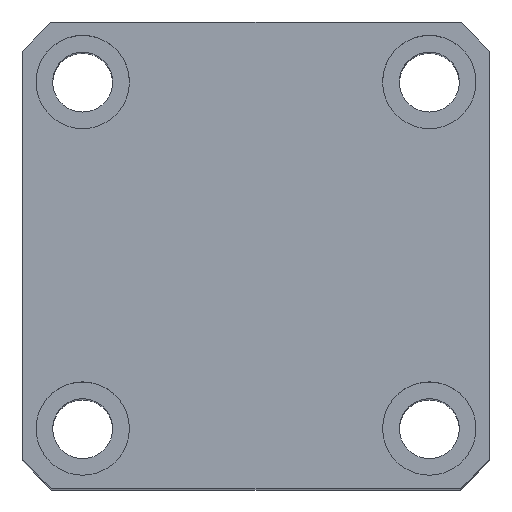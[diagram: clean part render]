
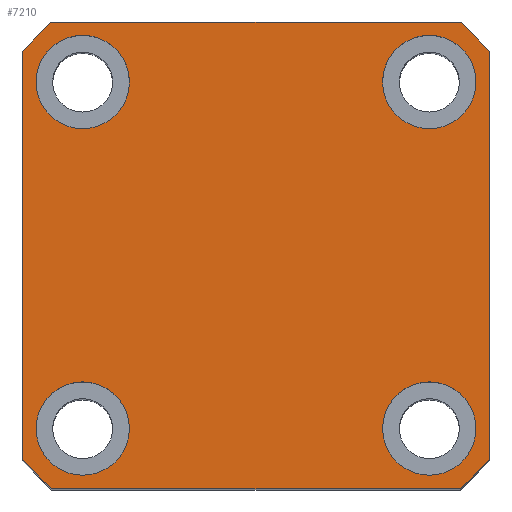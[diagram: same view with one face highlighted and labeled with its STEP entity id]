
A CAD part, top view. The second image highlights one B-rep face of the part: STEP entity #7210.
In plain terms, the highlighted planar face has unit normal (0, 0, 1).
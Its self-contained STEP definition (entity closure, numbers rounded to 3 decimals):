
#4 = AXIS2_PLACEMENT_3D ( 'NONE', #6477, #1854, #7226 ) ;
#46 = CARTESIAN_POINT ( 'NONE',  ( -19., 26., 125. ) ) ;
#124 = CIRCLE ( 'NONE', #1529, 7. ) ;
#165 = VERTEX_POINT ( 'NONE', #7181 ) ;
#301 = DIRECTION ( 'NONE',  ( 1., 0., 0. ) ) ;
#597 = EDGE_LOOP ( 'NONE', ( #7522, #2960 ) ) ;
#624 = CIRCLE ( 'NONE', #9490, 7. ) ;
#733 = CARTESIAN_POINT ( 'NONE',  ( 0., 0., 125. ) ) ;
#741 = CARTESIAN_POINT ( 'NONE',  ( 0., 0., 125. ) ) ;
#772 = DIRECTION ( 'NONE',  ( 1., 0., 0. ) ) ;
#786 = VERTEX_POINT ( 'NONE', #4846 ) ;
#893 = ORIENTED_EDGE ( 'NONE', *, *, #1136, .F. ) ;
#967 = VECTOR ( 'NONE', #1469, 1000. ) ;
#1009 = ORIENTED_EDGE ( 'NONE', *, *, #1782, .T. ) ;
#1136 = EDGE_CURVE ( 'NONE', #4262, #2977, #624, .T. ) ;
#1163 = LINE ( 'NONE', #2288, #5284 ) ;
#1195 = EDGE_CURVE ( 'NONE', #9448, #3443, #124, .T. ) ;
#1331 = AXIS2_PLACEMENT_3D ( 'NONE', #1372, #6760, #2141 ) ;
#1337 = DIRECTION ( 'NONE',  ( 0., 0., 1. ) ) ;
#1370 = EDGE_CURVE ( 'NONE', #3443, #9448, #5585, .T. ) ;
#1372 = CARTESIAN_POINT ( 'NONE',  ( 0., 0., 125. ) ) ;
#1469 = DIRECTION ( 'NONE',  ( 0., -1., 0. ) ) ;
#1503 = ORIENTED_EDGE ( 'NONE', *, *, #7091, .T. ) ;
#1519 = CARTESIAN_POINT ( 'NONE',  ( -26., 26., 125. ) ) ;
#1522 = EDGE_CURVE ( 'NONE', #2977, #4262, #9199, .T. ) ;
#1528 = DIRECTION ( 'NONE',  ( 1., 0., 0. ) ) ;
#1529 = AXIS2_PLACEMENT_3D ( 'NONE', #8742, #7184, #9478 ) ;
#1537 = DIRECTION ( 'NONE',  ( 1., 0., 0. ) ) ;
#1571 = FACE_BOUND ( 'NONE', #597, .T. ) ;
#1621 = EDGE_CURVE ( 'NONE', #5651, #3943, #2562, .T. ) ;
#1663 = CARTESIAN_POINT ( 'NONE',  ( 0., 0., 125. ) ) ;
#1678 = AXIS2_PLACEMENT_3D ( 'NONE', #4163, #8016, #3407 ) ;
#1761 = CARTESIAN_POINT ( 'NONE',  ( -35., 35., 125. ) ) ;
#1782 = EDGE_CURVE ( 'NONE', #7416, #7313, #9574, .T. ) ;
#1789 = EDGE_LOOP ( 'NONE', ( #2552, #2749 ) ) ;
#1821 = LINE ( 'NONE', #1761, #9797 ) ;
#1853 = EDGE_CURVE ( 'NONE', #4770, #2748, #3652, .T. ) ;
#1854 = DIRECTION ( 'NONE',  ( 0., 0., 1. ) ) ;
#1929 = CARTESIAN_POINT ( 'NONE',  ( -35., 30.615, 125. ) ) ;
#1955 = CIRCLE ( 'NONE', #3237, 46.5 ) ;
#1975 = EDGE_CURVE ( 'NONE', #165, #10014, #8828, .T. ) ;
#1978 = CARTESIAN_POINT ( 'NONE',  ( 19., -26., 125. ) ) ;
#2065 = LINE ( 'NONE', #7212, #7969 ) ;
#2141 = DIRECTION ( 'NONE',  ( 1., 0., 0. ) ) ;
#2143 = CARTESIAN_POINT ( 'NONE',  ( 30.615, 35., 125. ) ) ;
#2234 = CARTESIAN_POINT ( 'NONE',  ( -35., 35., 125. ) ) ;
#2288 = CARTESIAN_POINT ( 'NONE',  ( -35., -35., 125. ) ) ;
#2293 = DIRECTION ( 'NONE',  ( 1., 0., 0. ) ) ;
#2323 = EDGE_CURVE ( 'NONE', #8135, #786, #1955, .T. ) ;
#2401 = AXIS2_PLACEMENT_3D ( 'NONE', #741, #6158, #1537 ) ;
#2439 = DIRECTION ( 'NONE',  ( 1., 0., 0. ) ) ;
#2552 = ORIENTED_EDGE ( 'NONE', *, *, #1195, .F. ) ;
#2562 = CIRCLE ( 'NONE', #1331, 46.5 ) ;
#2607 = DIRECTION ( 'NONE',  ( 0., 1., 0. ) ) ;
#2656 = DIRECTION ( 'NONE',  ( 0., 0., 1. ) ) ;
#2748 = VERTEX_POINT ( 'NONE', #7272 ) ;
#2749 = ORIENTED_EDGE ( 'NONE', *, *, #1370, .F. ) ;
#2885 = CARTESIAN_POINT ( 'NONE',  ( 30.615, -35., 125. ) ) ;
#2960 = ORIENTED_EDGE ( 'NONE', *, *, #9581, .F. ) ;
#2977 = VERTEX_POINT ( 'NONE', #7587 ) ;
#3178 = AXIS2_PLACEMENT_3D ( 'NONE', #1519, #6895, #2293 ) ;
#3237 = AXIS2_PLACEMENT_3D ( 'NONE', #733, #6153, #1528 ) ;
#3379 = FACE_BOUND ( 'NONE', #1789, .T. ) ;
#3407 = DIRECTION ( 'NONE',  ( 1., 0., 0. ) ) ;
#3432 = AXIS2_PLACEMENT_3D ( 'NONE', #3520, #5426, #772 ) ;
#3443 = VERTEX_POINT ( 'NONE', #1978 ) ;
#3520 = CARTESIAN_POINT ( 'NONE',  ( -26., 26., 125. ) ) ;
#3601 = VERTEX_POINT ( 'NONE', #9973 ) ;
#3652 = CIRCLE ( 'NONE', #3432, 7. ) ;
#3656 = EDGE_CURVE ( 'NONE', #2748, #4770, #9677, .T. ) ;
#3802 = DIRECTION ( 'NONE',  ( 1., 0., 0. ) ) ;
#3943 = VERTEX_POINT ( 'NONE', #4937 ) ;
#4120 = AXIS2_PLACEMENT_3D ( 'NONE', #7261, #2656, #8040 ) ;
#4135 = EDGE_LOOP ( 'NONE', ( #6458, #8618, #1503, #1009, #5864, #8008, #8166, #9024 ) ) ;
#4163 = CARTESIAN_POINT ( 'NONE',  ( 0., 0., 125. ) ) ;
#4173 = DIRECTION ( 'NONE',  ( 0., 0., 1. ) ) ;
#4262 = VERTEX_POINT ( 'NONE', #7318 ) ;
#4357 = CARTESIAN_POINT ( 'NONE',  ( 26., 26., 125. ) ) ;
#4684 = AXIS2_PLACEMENT_3D ( 'NONE', #5970, #1337, #6736 ) ;
#4770 = VERTEX_POINT ( 'NONE', #46 ) ;
#4846 = CARTESIAN_POINT ( 'NONE',  ( -30.615, -35., 125. ) ) ;
#4937 = CARTESIAN_POINT ( 'NONE',  ( 35., -30.615, 125. ) ) ;
#5026 = CIRCLE ( 'NONE', #4684, 7. ) ;
#5135 = DIRECTION ( 'NONE',  ( 1., 0., 0. ) ) ;
#5206 = FACE_OUTER_BOUND ( 'NONE', #4135, .T. ) ;
#5284 = VECTOR ( 'NONE', #3802, 1000. ) ;
#5426 = DIRECTION ( 'NONE',  ( 0., 0., 1. ) ) ;
#5490 = ORIENTED_EDGE ( 'NONE', *, *, #3656, .F. ) ;
#5585 = CIRCLE ( 'NONE', #4120, 7. ) ;
#5651 = VERTEX_POINT ( 'NONE', #2885 ) ;
#5864 = ORIENTED_EDGE ( 'NONE', *, *, #5872, .T. ) ;
#5872 = EDGE_CURVE ( 'NONE', #7313, #8135, #6066, .T. ) ;
#5970 = CARTESIAN_POINT ( 'NONE',  ( -26., -26., 125. ) ) ;
#6035 = AXIS2_PLACEMENT_3D ( 'NONE', #1663, #7040, #2439 ) ;
#6066 = LINE ( 'NONE', #2234, #967 ) ;
#6134 = VERTEX_POINT ( 'NONE', #6420 ) ;
#6144 = CARTESIAN_POINT ( 'NONE',  ( 33., -26., 125. ) ) ;
#6153 = DIRECTION ( 'NONE',  ( 0., 0., 1. ) ) ;
#6158 = DIRECTION ( 'NONE',  ( 0., 0., 1. ) ) ;
#6177 = EDGE_CURVE ( 'NONE', #3943, #165, #2065, .T. ) ;
#6420 = CARTESIAN_POINT ( 'NONE',  ( -33., -26., 125. ) ) ;
#6458 = ORIENTED_EDGE ( 'NONE', *, *, #6177, .T. ) ;
#6477 = CARTESIAN_POINT ( 'NONE',  ( -26., -26., 125. ) ) ;
#6736 = DIRECTION ( 'NONE',  ( 1., 0., 0. ) ) ;
#6760 = DIRECTION ( 'NONE',  ( 0., 0., 1. ) ) ;
#6793 = CARTESIAN_POINT ( 'NONE',  ( -35., -30.615, 125. ) ) ;
#6895 = DIRECTION ( 'NONE',  ( 0., 0., 1. ) ) ;
#7040 = DIRECTION ( 'NONE',  ( 0., 0., 1. ) ) ;
#7091 = EDGE_CURVE ( 'NONE', #10014, #7416, #1821, .T. ) ;
#7167 = PLANE ( 'NONE',  #1678 ) ;
#7169 = EDGE_LOOP ( 'NONE', ( #9722, #5490 ) ) ;
#7174 = EDGE_LOOP ( 'NONE', ( #8389, #893 ) ) ;
#7181 = CARTESIAN_POINT ( 'NONE',  ( 35., 30.615, 125. ) ) ;
#7184 = DIRECTION ( 'NONE',  ( 0., 0., 1. ) ) ;
#7210 = ADVANCED_FACE ( 'NONE', ( #1571, #3379, #9301, #7224, #5206 ), #7167, .T. ) ;
#7212 = CARTESIAN_POINT ( 'NONE',  ( 35., 35., 125. ) ) ;
#7224 = FACE_BOUND ( 'NONE', #7169, .T. ) ;
#7226 = DIRECTION ( 'NONE',  ( 1., 0., 0. ) ) ;
#7261 = CARTESIAN_POINT ( 'NONE',  ( 26., -26., 125. ) ) ;
#7272 = CARTESIAN_POINT ( 'NONE',  ( -33., 26., 125. ) ) ;
#7313 = VERTEX_POINT ( 'NONE', #1929 ) ;
#7318 = CARTESIAN_POINT ( 'NONE',  ( 19., 26., 125. ) ) ;
#7341 = CARTESIAN_POINT ( 'NONE',  ( -30.615, 35., 125. ) ) ;
#7416 = VERTEX_POINT ( 'NONE', #7341 ) ;
#7518 = CIRCLE ( 'NONE', #4, 7. ) ;
#7522 = ORIENTED_EDGE ( 'NONE', *, *, #9878, .F. ) ;
#7587 = CARTESIAN_POINT ( 'NONE',  ( 33., 26., 125. ) ) ;
#7649 = EDGE_CURVE ( 'NONE', #786, #5651, #1163, .T. ) ;
#7969 = VECTOR ( 'NONE', #2607, 1000. ) ;
#8008 = ORIENTED_EDGE ( 'NONE', *, *, #2323, .T. ) ;
#8016 = DIRECTION ( 'NONE',  ( 0., 0., 1. ) ) ;
#8040 = DIRECTION ( 'NONE',  ( 1., 0., 0. ) ) ;
#8135 = VERTEX_POINT ( 'NONE', #6793 ) ;
#8166 = ORIENTED_EDGE ( 'NONE', *, *, #7649, .T. ) ;
#8389 = ORIENTED_EDGE ( 'NONE', *, *, #1522, .F. ) ;
#8618 = ORIENTED_EDGE ( 'NONE', *, *, #1975, .T. ) ;
#8742 = CARTESIAN_POINT ( 'NONE',  ( 26., -26., 125. ) ) ;
#8756 = AXIS2_PLACEMENT_3D ( 'NONE', #4357, #9755, #5135 ) ;
#8828 = CIRCLE ( 'NONE', #6035, 46.5 ) ;
#9024 = ORIENTED_EDGE ( 'NONE', *, *, #1621, .T. ) ;
#9199 = CIRCLE ( 'NONE', #8756, 7. ) ;
#9301 = FACE_BOUND ( 'NONE', #7174, .T. ) ;
#9410 = CARTESIAN_POINT ( 'NONE',  ( 26., 26., 125. ) ) ;
#9448 = VERTEX_POINT ( 'NONE', #6144 ) ;
#9478 = DIRECTION ( 'NONE',  ( 1., 0., 0. ) ) ;
#9490 = AXIS2_PLACEMENT_3D ( 'NONE', #9410, #4173, #301 ) ;
#9501 = DIRECTION ( 'NONE',  ( -1., 0., 0. ) ) ;
#9574 = CIRCLE ( 'NONE', #2401, 46.5 ) ;
#9581 = EDGE_CURVE ( 'NONE', #6134, #3601, #7518, .T. ) ;
#9677 = CIRCLE ( 'NONE', #3178, 7. ) ;
#9722 = ORIENTED_EDGE ( 'NONE', *, *, #1853, .F. ) ;
#9755 = DIRECTION ( 'NONE',  ( 0., 0., 1. ) ) ;
#9797 = VECTOR ( 'NONE', #9501, 1000. ) ;
#9878 = EDGE_CURVE ( 'NONE', #3601, #6134, #5026, .T. ) ;
#9973 = CARTESIAN_POINT ( 'NONE',  ( -19., -26., 125. ) ) ;
#10014 = VERTEX_POINT ( 'NONE', #2143 ) ;
